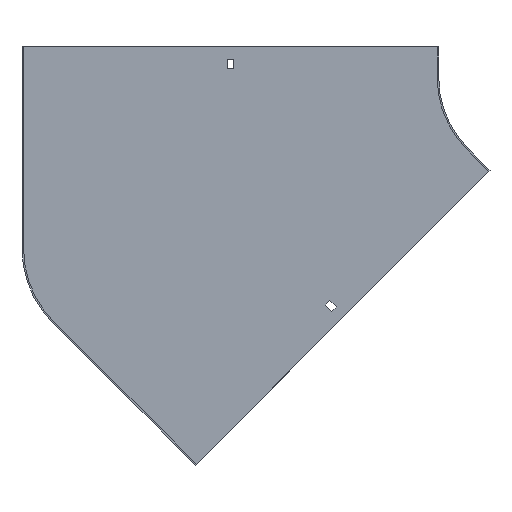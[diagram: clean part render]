
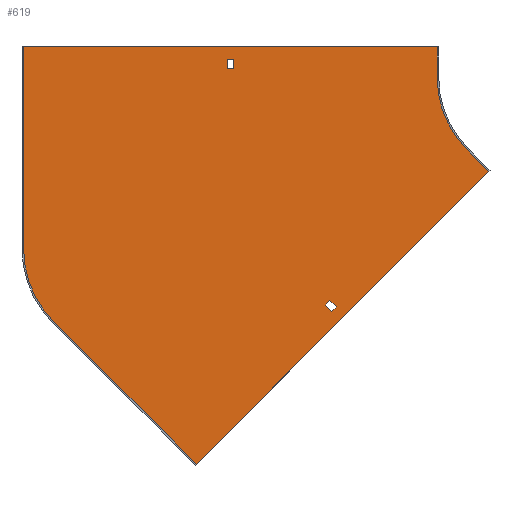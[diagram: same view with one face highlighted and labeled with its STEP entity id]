
A CAD part, front view. The second image highlights one B-rep face of the part: STEP entity #619.
In plain terms, the highlighted planar face has unit normal (0, -1, 0).
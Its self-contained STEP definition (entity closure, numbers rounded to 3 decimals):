
#2 = VERTEX_POINT ( 'NONE', #106 ) ;
#9 = EDGE_CURVE ( 'NONE', #260, #529, #778, .T. ) ;
#12 = CARTESIAN_POINT ( 'NONE',  ( -505.5, -1.5, 30. ) ) ;
#18 = VECTOR ( 'NONE', #121, 1000. ) ;
#27 = VECTOR ( 'NONE', #163, 1000. ) ;
#30 = ORIENTED_EDGE ( 'NONE', *, *, #69, .F. ) ;
#33 = DIRECTION ( 'NONE',  ( 0., -1., 0. ) ) ;
#36 = CARTESIAN_POINT ( 'NONE',  ( 0., -1.5, 0. ) ) ;
#45 = CARTESIAN_POINT ( 'NONE',  ( -211.248, -1.5, -211.248 ) ) ;
#50 = LINE ( 'NONE', #587, #18 ) ;
#52 = VERTEX_POINT ( 'NONE', #380 ) ;
#69 = EDGE_CURVE ( 'NONE', #416, #511, #50, .T. ) ;
#79 = DIRECTION ( 'NONE',  ( 0., 0., -1. ) ) ;
#85 = LINE ( 'NONE', #748, #735 ) ;
#86 = VERTEX_POINT ( 'NONE', #527 ) ;
#88 = CARTESIAN_POINT ( 'NONE',  ( 6.364, -1.5, -6.364 ) ) ;
#93 = DIRECTION ( 'NONE',  ( 0., 0., -1. ) ) ;
#97 = PLANE ( 'NONE',  #582 ) ;
#100 = CARTESIAN_POINT ( 'NONE',  ( -100., -1.5, 0. ) ) ;
#101 = DIRECTION ( 'NONE',  ( 0., 0., -1. ) ) ;
#106 = CARTESIAN_POINT ( 'NONE',  ( -198.52, -1.5, -223.976 ) ) ;
#109 = CARTESIAN_POINT ( 'NONE',  ( -305.25, -1.5, 0. ) ) ;
#119 = EDGE_CURVE ( 'NONE', #565, #205, #267, .T. ) ;
#121 = DIRECTION ( 'NONE',  ( 0., 0., 1. ) ) ;
#124 = DIRECTION ( 'NONE',  ( -0.707, 0., 0.707 ) ) ;
#125 = VECTOR ( 'NONE', #776, 1000. ) ;
#137 = DIRECTION ( 'NONE',  ( 1., 0., 0. ) ) ;
#145 = CARTESIAN_POINT ( 'NONE',  ( -298.75, -1.5, 18. ) ) ;
#153 = ORIENTED_EDGE ( 'NONE', *, *, #496, .F. ) ;
#156 = DIRECTION ( 'NONE',  ( -0.707, 0., -0.707 ) ) ;
#160 = LINE ( 'NONE', #88, #234 ) ;
#163 = DIRECTION ( 'NONE',  ( 0.707, 0., -0.707 ) ) ;
#169 = CARTESIAN_POINT ( 'NONE',  ( -203.116, -1.5, -228.572 ) ) ;
#171 = DIRECTION ( 'NONE',  ( -1., 0., 0. ) ) ;
#192 = ORIENTED_EDGE ( 'NONE', *, *, #677, .F. ) ;
#198 = ORIENTED_EDGE ( 'NONE', *, *, #705, .F. ) ;
#203 = AXIS2_PLACEMENT_3D ( 'NONE', #36, #286, #93 ) ;
#205 = VERTEX_POINT ( 'NONE', #145 ) ;
#206 = VECTOR ( 'NONE', #137, 1000. ) ;
#207 = CARTESIAN_POINT ( 'NONE',  ( -404., -1.5, -167.342 ) ) ;
#211 = VECTOR ( 'NONE', #101, 1000. ) ;
#215 = VERTEX_POINT ( 'NONE', #618 ) ;
#216 = EDGE_CURVE ( 'NONE', #511, #52, #683, .T. ) ;
#217 = DIRECTION ( 'NONE',  ( 1., 0., 0. ) ) ;
#234 = VECTOR ( 'NONE', #622, 1000. ) ;
#236 = LINE ( 'NONE', #513, #211 ) ;
#242 = CARTESIAN_POINT ( 'NONE',  ( -474.711, -1.5, -238.053 ) ) ;
#247 = DIRECTION ( 'NONE',  ( -0.707, 0., 0.707 ) ) ;
#253 = LINE ( 'NONE', #45, #722 ) ;
#255 = EDGE_CURVE ( 'NONE', #205, #424, #734, .T. ) ;
#260 = VERTEX_POINT ( 'NONE', #828 ) ;
#267 = LINE ( 'NONE', #483, #206 ) ;
#272 = DIRECTION ( 'NONE',  ( 0.707, 0., 0.707 ) ) ;
#278 = EDGE_CURVE ( 'NONE', #215, #565, #520, .T. ) ;
#281 = CIRCLE ( 'NONE', #765, 100. ) ;
#286 = DIRECTION ( 'NONE',  ( 0., -1., 0. ) ) ;
#294 = ORIENTED_EDGE ( 'NONE', *, *, #278, .T. ) ;
#297 = CARTESIAN_POINT ( 'NONE',  ( 0., -1.5, 0. ) ) ;
#313 = ORIENTED_EDGE ( 'NONE', *, *, #216, .F. ) ;
#321 = VECTOR ( 'NONE', #247, 1000. ) ;
#325 = VECTOR ( 'NONE', #171, 1000. ) ;
#343 = DIRECTION ( 'NONE',  ( 0., 0., -1. ) ) ;
#348 = EDGE_CURVE ( 'NONE', #86, #458, #508, .T. ) ;
#355 = VERTEX_POINT ( 'NONE', #100 ) ;
#368 = EDGE_LOOP ( 'NONE', ( #313, #30, #375, #198, #192, #857, #669, #723 ) ) ;
#373 = VECTOR ( 'NONE', #217, 1000. ) ;
#375 = ORIENTED_EDGE ( 'NONE', *, *, #616, .F. ) ;
#380 = CARTESIAN_POINT ( 'NONE',  ( -100., -1.5, 30. ) ) ;
#394 = VERTEX_POINT ( 'NONE', #540 ) ;
#398 = CARTESIAN_POINT ( 'NONE',  ( -504., -1.5, 30. ) ) ;
#402 = FACE_OUTER_BOUND ( 'NONE', #368, .T. ) ;
#416 = VERTEX_POINT ( 'NONE', #634 ) ;
#424 = VERTEX_POINT ( 'NONE', #492 ) ;
#440 = DIRECTION ( 'NONE',  ( 0.707, 0., -0.707 ) ) ;
#451 = CARTESIAN_POINT ( 'NONE',  ( 0., -1.5, 9. ) ) ;
#458 = VERTEX_POINT ( 'NONE', #169 ) ;
#466 = CARTESIAN_POINT ( 'NONE',  ( -49.497, -1.5, -91.924 ) ) ;
#467 = ORIENTED_EDGE ( 'NONE', *, *, #730, .F. ) ;
#473 = DIRECTION ( 'NONE',  ( 0., 1., 0. ) ) ;
#483 = CARTESIAN_POINT ( 'NONE',  ( 0., -1.5, 18. ) ) ;
#489 = ORIENTED_EDGE ( 'NONE', *, *, #703, .T. ) ;
#492 = CARTESIAN_POINT ( 'NONE',  ( -298.75, -1.5, 9. ) ) ;
#496 = EDGE_CURVE ( 'NONE', #860, #86, #160, .T. ) ;
#502 = CIRCLE ( 'NONE', #203, 100. ) ;
#508 = LINE ( 'NONE', #757, #27 ) ;
#511 = VERTEX_POINT ( 'NONE', #398 ) ;
#513 = CARTESIAN_POINT ( 'NONE',  ( -100., -1.5, 30. ) ) ;
#520 = LINE ( 'NONE', #109, #125 ) ;
#527 = CARTESIAN_POINT ( 'NONE',  ( -209.48, -1.5, -222.208 ) ) ;
#529 = VERTEX_POINT ( 'NONE', #466 ) ;
#540 = CARTESIAN_POINT ( 'NONE',  ( -335.169, -1.5, -377.595 ) ) ;
#547 = CARTESIAN_POINT ( 'NONE',  ( 12.728, -1.5, -12.728 ) ) ;
#551 = VECTOR ( 'NONE', #272, 1000. ) ;
#565 = VERTEX_POINT ( 'NONE', #844 ) ;
#582 = AXIS2_PLACEMENT_3D ( 'NONE', #297, #33, #829 ) ;
#587 = CARTESIAN_POINT ( 'NONE',  ( -504., -1.5, -167.342 ) ) ;
#596 = EDGE_CURVE ( 'NONE', #458, #2, #666, .T. ) ;
#616 = EDGE_CURVE ( 'NONE', #750, #416, #281, .T. ) ;
#618 = CARTESIAN_POINT ( 'NONE',  ( -305.25, -1.5, 9. ) ) ;
#619 = ADVANCED_FACE ( 'NONE', ( #739, #402, #660 ), #97, .T. ) ;
#620 = EDGE_CURVE ( 'NONE', #355, #260, #502, .T. ) ;
#621 = EDGE_LOOP ( 'NONE', ( #668, #685, #489, #294 ) ) ;
#622 = DIRECTION ( 'NONE',  ( -0.707, 0., -0.707 ) ) ;
#634 = CARTESIAN_POINT ( 'NONE',  ( -504., -1.5, -167.342 ) ) ;
#645 = LINE ( 'NONE', #848, #321 ) ;
#646 = EDGE_CURVE ( 'NONE', #52, #355, #236, .T. ) ;
#660 = FACE_BOUND ( 'NONE', #621, .T. ) ;
#666 = LINE ( 'NONE', #547, #551 ) ;
#668 = ORIENTED_EDGE ( 'NONE', *, *, #119, .T. ) ;
#669 = ORIENTED_EDGE ( 'NONE', *, *, #620, .F. ) ;
#670 = CARTESIAN_POINT ( 'NONE',  ( -298.75, -1.5, 0. ) ) ;
#675 = ORIENTED_EDGE ( 'NONE', *, *, #348, .F. ) ;
#677 = EDGE_CURVE ( 'NONE', #529, #394, #85, .T. ) ;
#683 = LINE ( 'NONE', #12, #373 ) ;
#685 = ORIENTED_EDGE ( 'NONE', *, *, #255, .T. ) ;
#703 = EDGE_CURVE ( 'NONE', #424, #215, #766, .T. ) ;
#705 = EDGE_CURVE ( 'NONE', #394, #750, #645, .T. ) ;
#722 = VECTOR ( 'NONE', #124, 1000. ) ;
#723 = ORIENTED_EDGE ( 'NONE', *, *, #646, .F. ) ;
#730 = EDGE_CURVE ( 'NONE', #2, #860, #253, .T. ) ;
#734 = LINE ( 'NONE', #670, #803 ) ;
#735 = VECTOR ( 'NONE', #156, 1000. ) ;
#739 = FACE_BOUND ( 'NONE', #845, .T. ) ;
#748 = CARTESIAN_POINT ( 'NONE',  ( -48.437, -1.5, -90.863 ) ) ;
#750 = VERTEX_POINT ( 'NONE', #242 ) ;
#752 = VECTOR ( 'NONE', #440, 1000. ) ;
#757 = CARTESIAN_POINT ( 'NONE',  ( -215.844, -1.5, -215.844 ) ) ;
#765 = AXIS2_PLACEMENT_3D ( 'NONE', #207, #473, #343 ) ;
#766 = LINE ( 'NONE', #451, #325 ) ;
#767 = CARTESIAN_POINT ( 'NONE',  ( -70.711, -1.5, -70.711 ) ) ;
#774 = CARTESIAN_POINT ( 'NONE',  ( -204.884, -1.5, -217.612 ) ) ;
#776 = DIRECTION ( 'NONE',  ( 0., 0., 1. ) ) ;
#778 = LINE ( 'NONE', #767, #752 ) ;
#788 = ORIENTED_EDGE ( 'NONE', *, *, #596, .F. ) ;
#803 = VECTOR ( 'NONE', #79, 1000. ) ;
#828 = CARTESIAN_POINT ( 'NONE',  ( -70.711, -1.5, -70.711 ) ) ;
#829 = DIRECTION ( 'NONE',  ( 0., 0., -1. ) ) ;
#844 = CARTESIAN_POINT ( 'NONE',  ( -305.25, -1.5, 18. ) ) ;
#845 = EDGE_LOOP ( 'NONE', ( #467, #788, #675, #153 ) ) ;
#848 = CARTESIAN_POINT ( 'NONE',  ( -335.169, -1.5, -377.595 ) ) ;
#857 = ORIENTED_EDGE ( 'NONE', *, *, #9, .F. ) ;
#860 = VERTEX_POINT ( 'NONE', #774 ) ;
